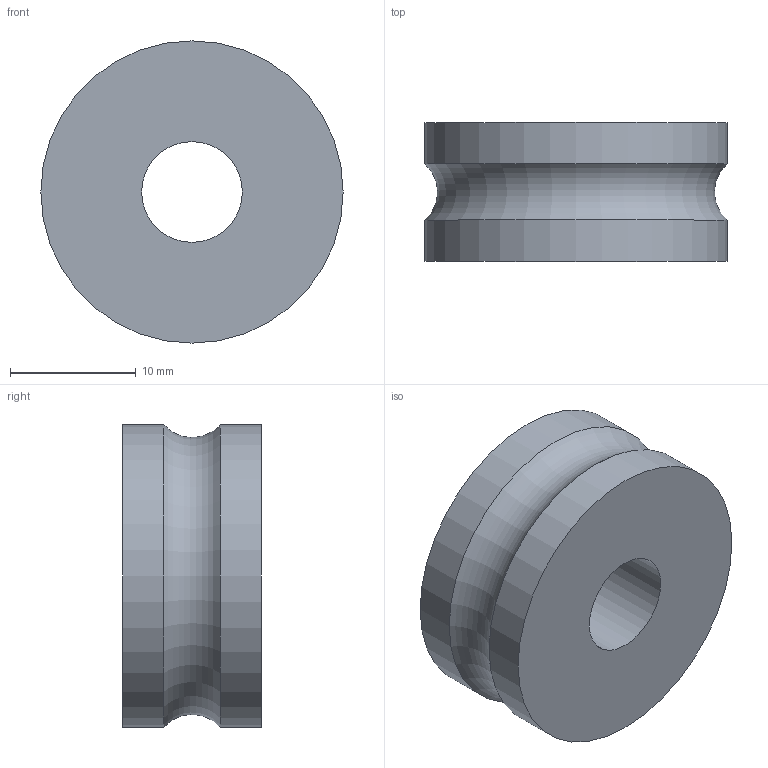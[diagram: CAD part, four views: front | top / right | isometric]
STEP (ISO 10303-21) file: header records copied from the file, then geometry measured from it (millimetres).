
FILE_DESCRIPTION (( 'STEP AP214' ), '1' );
FILE_NAME ('LFR50／8KDD.STEP', '2020-05-12T01:52:16', ( '' ), ( '' ), 'SwSTEP 2.0', 'SolidWorks 2019', '' );
FILE_SCHEMA (( 'AUTOMOTIVE_DESIGN' ));
Length unit declared in the file: millimetre
Products named in the file (1): LFR50／8KDD
Bounding box: 24 x 11 x 24 mm (x, y, z)
Volume: 4197.7 mm3; surface area: 1932.5 mm2
Topology: 1 solids, 1 shells, 6 faces, 10 edges, 6 vertices
Faces by surface type: cylinder 3, plane 2, torus 1
Full cylindrical faces by diameter (mm): 8 x1, 24 x2
Entity records: 162 total; most frequent: DIRECTION 26, CARTESIAN_POINT 19, AXIS2_PLACEMENT_3D 13, EDGE_LOOP 12, ORIENTED_EDGE 12, FACE_OUTER_BOUND 10, ADVANCED_FACE 6, CIRCLE 6
